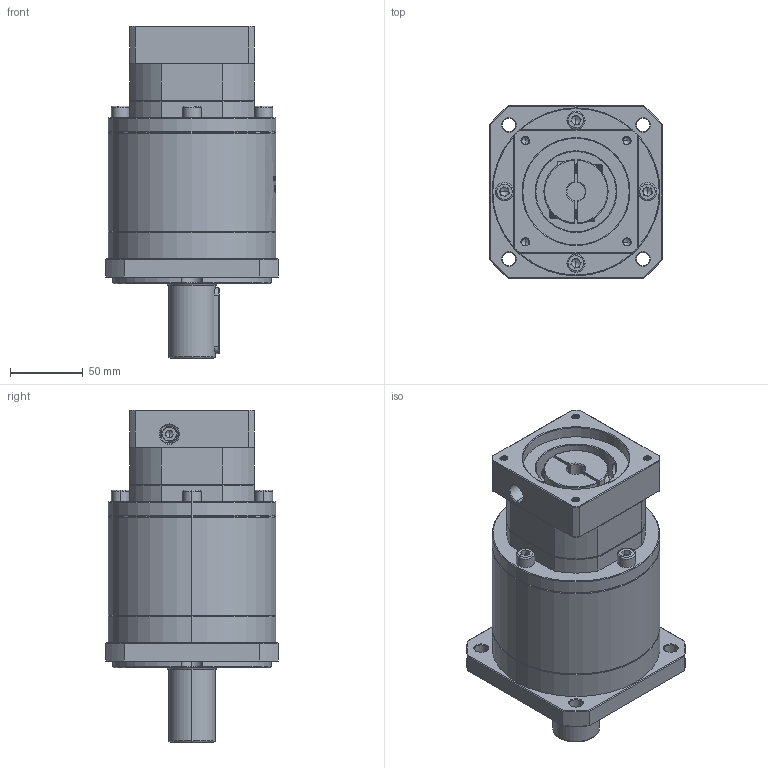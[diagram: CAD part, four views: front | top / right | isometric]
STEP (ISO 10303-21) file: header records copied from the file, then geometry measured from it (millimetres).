
FILE_DESCRIPTION (( 'STEP AP214' ), '1' );
FILE_NAME ('ZF120A-D32-L3-12.7-73-69.5X69.5-M6.step', '2023-03-07T15:02:27', ( '' ), ( 'Microsoft' ), 'SwSTEP 2.0', 'SolidWorks 2016', '' );
FILE_SCHEMA (( 'AUTOMOTIVE_DESIGN' ));
Length unit declared in the file: millimetre
Products named in the file (1): ZF120A-D32-L3-12.7-73-69.5X69.5-M6
Bounding box: 118 x 118 x 227.5 mm (x, y, z)
Volume: 1588192.7 mm3; surface area: 138566.8 mm2
Topology: 5 solids, 6 shells, 1934 faces, 5074 edges, 3232 vertices
Faces by surface type: plane 883, cylinder 402, bspline 321, cone 313, torus 15
Entity records: 105329 total; most frequent: CARTESIAN_POINT 40205, ORIENTED_EDGE 10088, DIRECTION 7788, EDGE_CURVE 5044, VERTEX_POINT 3232, LINE 2750, VECTOR 2750, AXIS2_PLACEMENT_3D 2519
